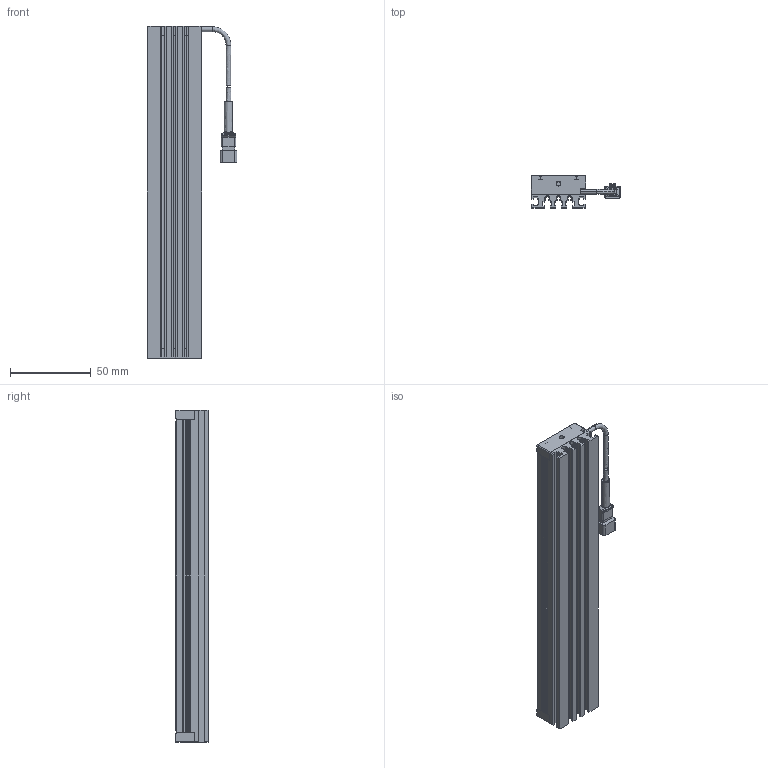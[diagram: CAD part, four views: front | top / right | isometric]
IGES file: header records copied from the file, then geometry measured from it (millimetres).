
Start section: SolidWorks IGES file using NURBS representation for surfaces
Global section: file name: U:\PRODUCTS\80_その他テーマ\RD32114_LDL2-GR2特注の標準化\02_図面\提出用\3D\36_LDL2-194X30GR2\LDL2-194X30GR2.IGS; native system: SolidWorks 2022; preprocessor: SolidWorks 2022; author: takaomc; date: 241001.110556; units: millimetre
Bounding box: 55.75 x 20 x 206 mm (x, y, z)
Surface area: 63598.5 mm2 (no closed solid volume)
Topology: 0 solids, 0 shells, 481 faces, 4582 edges, 4566 vertices
Faces by surface type: bspline 481
